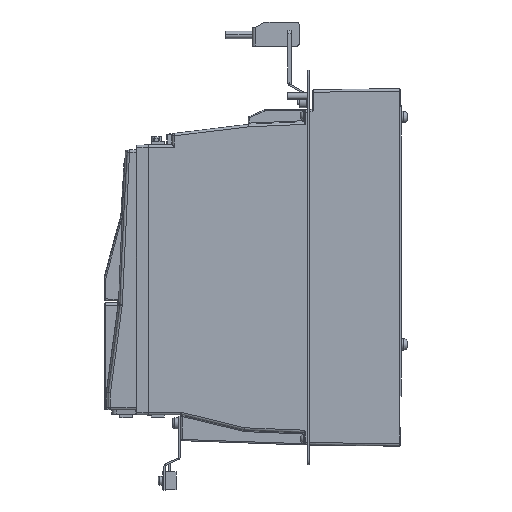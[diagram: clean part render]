
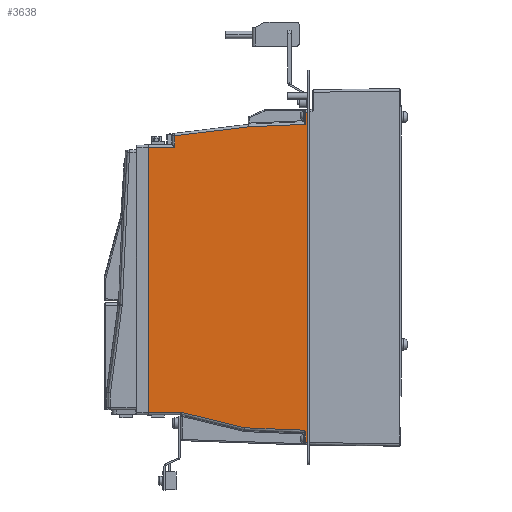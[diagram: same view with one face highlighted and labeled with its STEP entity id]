
A CAD part, left-side view. The second image highlights one B-rep face of the part: STEP entity #3638.
In plain terms, the highlighted planar face has unit normal (-1, 0, 0).
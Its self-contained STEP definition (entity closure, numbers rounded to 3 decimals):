
#290 = CARTESIAN_POINT ( 'NONE',  ( -64., 125.725, -275.044 ) ) ;
#1587 = CARTESIAN_POINT ( 'NONE',  ( -64., 202.8, -19. ) ) ;
#1819 = CARTESIAN_POINT ( 'NONE',  ( -64., 177.407, -262.5 ) ) ;
#2735 = CARTESIAN_POINT ( 'NONE',  ( -64., 77.5, -277.013 ) ) ;
#3638 = ADVANCED_FACE ( 'NONE', ( #17864 ), #13996, .F. ) ;
#4070 = LINE ( 'NONE', #21121, #7125 ) ;
#4264 = LINE ( 'NONE', #30123, #23625 ) ;
#4339 = DIRECTION ( 'NONE',  ( 0., -1., 0. ) ) ;
#4970 = LINE ( 'NONE', #46768, #37415 ) ;
#5679 = EDGE_CURVE ( 'NONE', #7539, #15319, #31618, .T. ) ;
#5779 = CARTESIAN_POINT ( 'NONE',  ( -64., 232.631, -44.384 ) ) ;
#5848 = CARTESIAN_POINT ( 'NONE',  ( -64., 125.536, -275.09 ) ) ;
#6149 = ORIENTED_EDGE ( 'NONE', *, *, #32856, .T. ) ;
#6236 = EDGE_CURVE ( 'NONE', #30472, #16095, #35530, .T. ) ;
#6321 = CARTESIAN_POINT ( 'NONE',  ( -64., 76.5, -19. ) ) ;
#7086 = LINE ( 'NONE', #23869, #19076 ) ;
#7125 = VECTOR ( 'NONE', #4339, 1000. ) ;
#7539 = VERTEX_POINT ( 'NONE', #43325 ) ;
#7910 = CARTESIAN_POINT ( 'NONE',  ( -64., 76.652, -278.27 ) ) ;
#8145 = CARTESIAN_POINT ( 'NONE',  ( -64., 76.5, -279.014 ) ) ;
#8598 = CARTESIAN_POINT ( 'NONE',  ( -64., 76.5, -28.98 ) ) ;
#9592 = VECTOR ( 'NONE', #49354, 1000. ) ;
#10053 = CARTESIAN_POINT ( 'NONE',  ( -64., 74.55, -287. ) ) ;
#10540 = VECTOR ( 'NONE', #11743, 1000. ) ;
#10842 = LINE ( 'NONE', #31486, #38802 ) ;
#10990 = DIRECTION ( 'NONE',  ( 0., 0.993, -0.121 ) ) ;
#11254 = CARTESIAN_POINT ( 'NONE',  ( -64., 204.2, 0. ) ) ;
#11267 = EDGE_CURVE ( 'NONE', #34570, #32524, #16989, .T. ) ;
#11348 = EDGE_LOOP ( 'NONE', ( #36626, #22322, #17021, #6149, #44919, #47572, #35842, #30922, #50959, #45590, #37958, #37524, #38857, #21742 ) ) ;
#11743 = DIRECTION ( 'NONE',  ( 0., -0.999, -0.041 ) ) ;
#12316 = EDGE_CURVE ( 'NONE', #17338, #34570, #4970, .T. ) ;
#12565 = CARTESIAN_POINT ( 'NONE',  ( -64., 76.5, -279.014 ) ) ;
#12587 = CARTESIAN_POINT ( 'NONE',  ( -64., 204.2, -47.5 ) ) ;
#13750 = DIRECTION ( 'NONE',  ( 0., 0., -1. ) ) ;
#13996 = PLANE ( 'NONE',  #25541 ) ;
#14249 = CARTESIAN_POINT ( 'NONE',  ( -64., 122.835, -30.995 ) ) ;
#14267 = CARTESIAN_POINT ( 'NONE',  ( -64., 202.8, -289. ) ) ;
#15253 = CARTESIAN_POINT ( 'NONE',  ( -64., 74.55, 10. ) ) ;
#15319 = VERTEX_POINT ( 'NONE', #12587 ) ;
#15880 = CARTESIAN_POINT ( 'NONE',  ( -64., 76.92, -277.036 ) ) ;
#15894 = DIRECTION ( 'NONE',  ( 0., 0., -1. ) ) ;
#15935 = DIRECTION ( 'NONE',  ( 0., 0., 1. ) ) ;
#16095 = VERTEX_POINT ( 'NONE', #290 ) ;
#16162 = CARTESIAN_POINT ( 'NONE',  ( -64., 77.259, -277.308 ) ) ;
#16851 = VERTEX_POINT ( 'NONE', #8145 ) ;
#16989 = LINE ( 'NONE', #25256, #25076 ) ;
#17021 = ORIENTED_EDGE ( 'NONE', *, *, #50367, .T. ) ;
#17338 = VERTEX_POINT ( 'NONE', #6321 ) ;
#17356 = EDGE_CURVE ( 'NONE', #32524, #50922, #48667, .T. ) ;
#17738 = DIRECTION ( 'NONE',  ( 0., -1., 0. ) ) ;
#17783 = VECTOR ( 'NONE', #10990, 1000. ) ;
#17864 = FACE_OUTER_BOUND ( 'NONE', #11348, .T. ) ;
#18131 = DIRECTION ( 'NONE',  ( 1., 0., 0. ) ) ;
#19076 = VECTOR ( 'NONE', #15894, 1000. ) ;
#19839 = EDGE_CURVE ( 'NONE', #41031, #17338, #43404, .T. ) ;
#20621 = VECTOR ( 'NONE', #21959, 1000. ) ;
#21121 = CARTESIAN_POINT ( 'NONE',  ( -64., 202.8, -262.5 ) ) ;
#21723 = DIRECTION ( 'NONE',  ( 0., 0., -1. ) ) ;
#21742 = ORIENTED_EDGE ( 'NONE', *, *, #5679, .F. ) ;
#21959 = DIRECTION ( 'NONE',  ( 0., 1., 0. ) ) ;
#22322 = ORIENTED_EDGE ( 'NONE', *, *, #6236, .T. ) ;
#23391 = CARTESIAN_POINT ( 'NONE',  ( -64., 182.5, -38.271 ) ) ;
#23625 = VECTOR ( 'NONE', #17738, 1000. ) ;
#23684 = CARTESIAN_POINT ( 'NONE',  ( -64., 182.5, -47.5 ) ) ;
#23869 = CARTESIAN_POINT ( 'NONE',  ( -64., 182.5, -289. ) ) ;
#25076 = VECTOR ( 'NONE', #33775, 1000. ) ;
#25256 = CARTESIAN_POINT ( 'NONE',  ( -64., 213.846, -34.952 ) ) ;
#25464 = VERTEX_POINT ( 'NONE', #2735 ) ;
#25541 = AXIS2_PLACEMENT_3D ( 'NONE', #14267, #18131, #21723 ) ;
#25583 = CARTESIAN_POINT ( 'NONE',  ( -64., 202.8, -47.5 ) ) ;
#28726 = VERTEX_POINT ( 'NONE', #45527 ) ;
#30123 = CARTESIAN_POINT ( 'NONE',  ( -64., 202.8, -287. ) ) ;
#30472 = VERTEX_POINT ( 'NONE', #1819 ) ;
#30922 = ORIENTED_EDGE ( 'NONE', *, *, #19839, .T. ) ;
#31486 = CARTESIAN_POINT ( 'NONE',  ( -64., 76.5, -289. ) ) ;
#31618 = LINE ( 'NONE', #11254, #51120 ) ;
#32524 = VERTEX_POINT ( 'NONE', #14249 ) ;
#32856 = EDGE_CURVE ( 'NONE', #25464, #16851, #51516, .T. ) ;
#33484 = CARTESIAN_POINT ( 'NONE',  ( -64., 76.733, -278.099 ) ) ;
#33753 = CARTESIAN_POINT ( 'NONE',  ( -64., 77.5, -277.013 ) ) ;
#33775 = DIRECTION ( 'NONE',  ( 0., 0.999, -0.043 ) ) ;
#34570 = VERTEX_POINT ( 'NONE', #8598 ) ;
#35530 = LINE ( 'NONE', #5848, #45904 ) ;
#35842 = ORIENTED_EDGE ( 'NONE', *, *, #49024, .T. ) ;
#36626 = ORIENTED_EDGE ( 'NONE', *, *, #53789, .T. ) ;
#37415 = VECTOR ( 'NONE', #13750, 1000. ) ;
#37524 = ORIENTED_EDGE ( 'NONE', *, *, #46191, .T. ) ;
#37958 = ORIENTED_EDGE ( 'NONE', *, *, #17356, .T. ) ;
#38488 = DIRECTION ( 'NONE',  ( 0., 1., 0. ) ) ;
#38802 = VECTOR ( 'NONE', #40548, 1000. ) ;
#38857 = ORIENTED_EDGE ( 'NONE', *, *, #47964, .T. ) ;
#40548 = DIRECTION ( 'NONE',  ( 0., 0., -1. ) ) ;
#41031 = VERTEX_POINT ( 'NONE', #42203 ) ;
#41730 = CARTESIAN_POINT ( 'NONE',  ( -64., 76.535, -278.634 ) ) ;
#42203 = CARTESIAN_POINT ( 'NONE',  ( -64., 74.55, -19. ) ) ;
#43325 = CARTESIAN_POINT ( 'NONE',  ( -64., 204.2, -262.5 ) ) ;
#43404 = LINE ( 'NONE', #1587, #20621 ) ;
#44728 = VERTEX_POINT ( 'NONE', #10053 ) ;
#44919 = ORIENTED_EDGE ( 'NONE', *, *, #54377, .T. ) ;
#45527 = CARTESIAN_POINT ( 'NONE',  ( -64., 76.5, -287. ) ) ;
#45542 = VECTOR ( 'NONE', #38488, 1000. ) ;
#45590 = ORIENTED_EDGE ( 'NONE', *, *, #11267, .T. ) ;
#45598 = CARTESIAN_POINT ( 'NONE',  ( -64., 77.016, -277.606 ) ) ;
#45904 = VECTOR ( 'NONE', #52317, 1000. ) ;
#46191 = EDGE_CURVE ( 'NONE', #50922, #47875, #7086, .T. ) ;
#46768 = CARTESIAN_POINT ( 'NONE',  ( -64., 76.5, -289. ) ) ;
#47019 = LINE ( 'NONE', #25583, #45542 ) ;
#47572 = ORIENTED_EDGE ( 'NONE', *, *, #48532, .T. ) ;
#47875 = VERTEX_POINT ( 'NONE', #23684 ) ;
#47964 = EDGE_CURVE ( 'NONE', #47875, #15319, #47019, .T. ) ;
#48532 = EDGE_CURVE ( 'NONE', #28726, #44728, #4264, .T. ) ;
#48667 = LINE ( 'NONE', #5779, #17783 ) ;
#49024 = EDGE_CURVE ( 'NONE', #44728, #41031, #54044, .T. ) ;
#49354 = DIRECTION ( 'NONE',  ( 0., 0., 1. ) ) ;
#50253 = CARTESIAN_POINT ( 'NONE',  ( -64., 76.5, -278.822 ) ) ;
#50367 = EDGE_CURVE ( 'NONE', #16095, #25464, #53846, .T. ) ;
#50922 = VERTEX_POINT ( 'NONE', #23391 ) ;
#50959 = ORIENTED_EDGE ( 'NONE', *, *, #12316, .T. ) ;
#51120 = VECTOR ( 'NONE', #15935, 1000. ) ;
#51516 = B_SPLINE_CURVE_WITH_KNOTS ( 'NONE', 3,
 ( #33753, #16162, #45598, #33484, #7910, #41730, #50253, #12565 ),
 .UNSPECIFIED., .F., .F.,
 ( 4, 2, 2, 4 ),
 ( 0., 0.001, 0.002, 0.002 ),
 .UNSPECIFIED. ) ;
#52317 = DIRECTION ( 'NONE',  ( 0., -0.972, -0.236 ) ) ;
#53789 = EDGE_CURVE ( 'NONE', #7539, #30472, #4070, .T. ) ;
#53846 = LINE ( 'NONE', #15880, #10540 ) ;
#54044 = LINE ( 'NONE', #15253, #9592 ) ;
#54377 = EDGE_CURVE ( 'NONE', #16851, #28726, #10842, .T. ) ;
